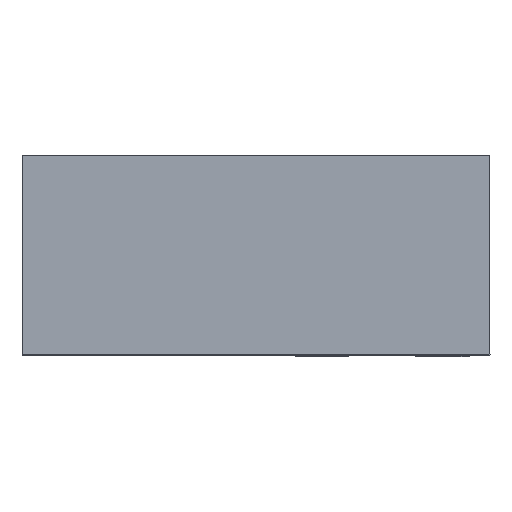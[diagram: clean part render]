
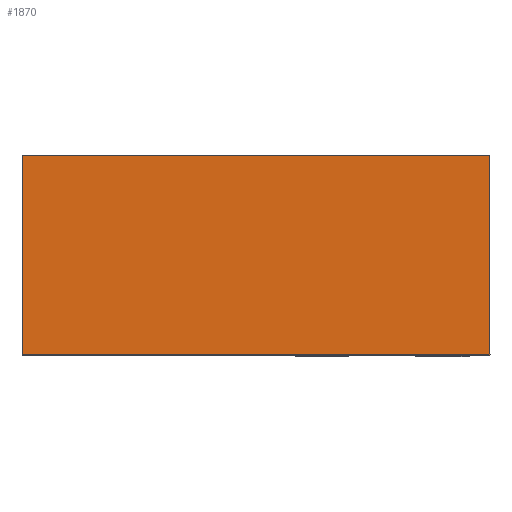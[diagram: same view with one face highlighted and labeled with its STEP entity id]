
A CAD part, top view. The second image highlights one B-rep face of the part: STEP entity #1870.
In plain terms, the highlighted planar face has unit normal (0, 0, 1).
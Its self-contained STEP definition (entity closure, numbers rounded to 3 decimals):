
#252 = VERTEX_POINT ( 'NONE', #2058 ) ;
#302 = CARTESIAN_POINT ( 'NONE',  ( 77., -1., 44. ) ) ;
#868 = PLANE ( 'NONE',  #987 ) ;
#987 = AXIS2_PLACEMENT_3D ( 'NONE', #9198, #4226, #15906 ) ;
#1721 = VERTEX_POINT ( 'NONE', #302 ) ;
#1870 = ADVANCED_FACE ( 'NONE', ( #9503 ), #868, .T. ) ;
#2049 = VERTEX_POINT ( 'NONE', #4741 ) ;
#2058 = CARTESIAN_POINT ( 'NONE',  ( -1., 182., 44. ) ) ;
#2992 = VECTOR ( 'NONE', #8971, 1000. ) ;
#3132 = EDGE_CURVE ( 'NONE', #252, #2049, #14888, .T. ) ;
#3216 = CARTESIAN_POINT ( 'NONE',  ( 77., 182., 44. ) ) ;
#4226 = DIRECTION ( 'NONE',  ( 0., 0., 1. ) ) ;
#4741 = CARTESIAN_POINT ( 'NONE',  ( -1., -1., 44. ) ) ;
#5050 = DIRECTION ( 'NONE',  ( 0., 1., 0. ) ) ;
#6004 = VECTOR ( 'NONE', #14613, 1000. ) ;
#7451 = LINE ( 'NONE', #12244, #2992 ) ;
#7988 = CARTESIAN_POINT ( 'NONE',  ( -1., 182., 44. ) ) ;
#8746 = ORIENTED_EDGE ( 'NONE', *, *, #15942, .T. ) ;
#8971 = DIRECTION ( 'NONE',  ( 1., 0., 0. ) ) ;
#9198 = CARTESIAN_POINT ( 'NONE',  ( 0., 0., 44. ) ) ;
#9503 = FACE_OUTER_BOUND ( 'NONE', #15573, .T. ) ;
#9816 = EDGE_CURVE ( 'NONE', #20550, #252, #18766, .T. ) ;
#9831 = CARTESIAN_POINT ( 'NONE',  ( -1., 182., 44. ) ) ;
#11377 = EDGE_CURVE ( 'NONE', #1721, #20550, #16723, .T. ) ;
#11548 = ORIENTED_EDGE ( 'NONE', *, *, #9816, .T. ) ;
#12244 = CARTESIAN_POINT ( 'NONE',  ( -1., -1., 44. ) ) ;
#12800 = ORIENTED_EDGE ( 'NONE', *, *, #3132, .T. ) ;
#13182 = DIRECTION ( 'NONE',  ( -1., 0., 0. ) ) ;
#14349 = VECTOR ( 'NONE', #13182, 1000. ) ;
#14613 = DIRECTION ( 'NONE',  ( 0., -1., 0. ) ) ;
#14888 = LINE ( 'NONE', #7988, #6004 ) ;
#15573 = EDGE_LOOP ( 'NONE', ( #12800, #8746, #20198, #11548 ) ) ;
#15906 = DIRECTION ( 'NONE',  ( 1., 0., 0. ) ) ;
#15942 = EDGE_CURVE ( 'NONE', #2049, #1721, #7451, .T. ) ;
#16723 = LINE ( 'NONE', #16727, #20652 ) ;
#16727 = CARTESIAN_POINT ( 'NONE',  ( 77., 182., 44. ) ) ;
#18766 = LINE ( 'NONE', #9831, #14349 ) ;
#20198 = ORIENTED_EDGE ( 'NONE', *, *, #11377, .T. ) ;
#20550 = VERTEX_POINT ( 'NONE', #3216 ) ;
#20652 = VECTOR ( 'NONE', #5050, 1000. ) ;
